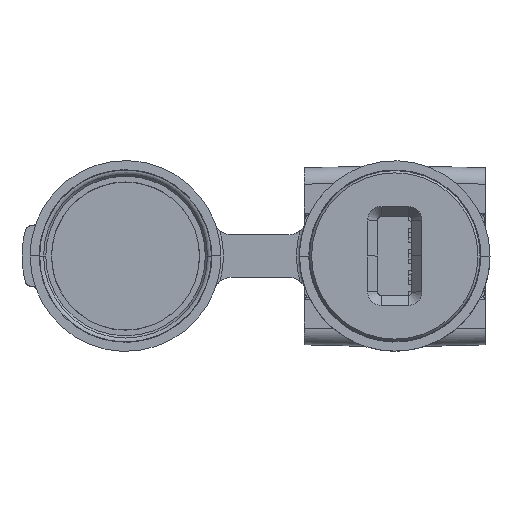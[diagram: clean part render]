
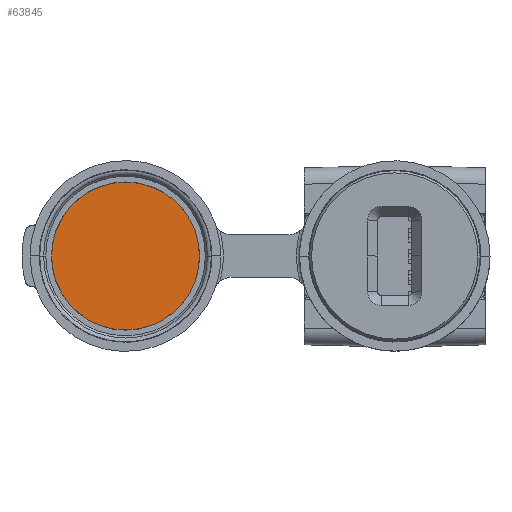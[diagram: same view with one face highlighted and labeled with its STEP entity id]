
A CAD part, top view. The second image highlights one B-rep face of the part: STEP entity #63845.
In plain terms, the highlighted planar face has unit normal (0, 0, 1).
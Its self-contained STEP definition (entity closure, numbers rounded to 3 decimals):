
#61456=CARTESIAN_POINT('',(-44.519,0.,
45.621));
#61457=DIRECTION('',(0.,0.,1.));
#61458=DIRECTION('',(-1.,0.,0.));
#61459=AXIS2_PLACEMENT_3D('',#61456,#61457,#61458);
#61464=CARTESIAN_POINT('',(-44.519,0.,
45.621));
#61465=DIRECTION('',(0.,0.,1.));
#61466=DIRECTION('',(1.,0.,0.));
#61467=AXIS2_PLACEMENT_3D('',#61464,#61465,#61466);
#63577=CARTESIAN_POINT('',(-56.742,0.,45.621));
#63578=CARTESIAN_POINT('',(-32.296,0.,
45.621));
#63579=VERTEX_POINT('',#63577);
#63580=VERTEX_POINT('',#63578);
#63834=CARTESIAN_POINT('',(-44.519,0.,
45.621));
#63835=DIRECTION('',(0.,0.,1.));
#63836=DIRECTION('',(1.,0.,0.));
#63837=AXIS2_PLACEMENT_3D('',#63834,#63835,#63836);
#63838=PLANE('',#63837);
#63840=ORIENTED_EDGE('',*,*,#63839,.F.);
#63842=ORIENTED_EDGE('',*,*,#63841,.F.);
#63843=EDGE_LOOP('',(#63840,#63842));
#63844=FACE_OUTER_BOUND('',#63843,.F.);
#61460=CIRCLE('',#61459,12.223);
#61468=CIRCLE('',#61467,12.223);
#63839=EDGE_CURVE('',#63579,#63580,#61460,.T.);
#63841=EDGE_CURVE('',#63580,#63579,#61468,.T.);
#63845=ADVANCED_FACE('',(#63844),#63838,.T.);
